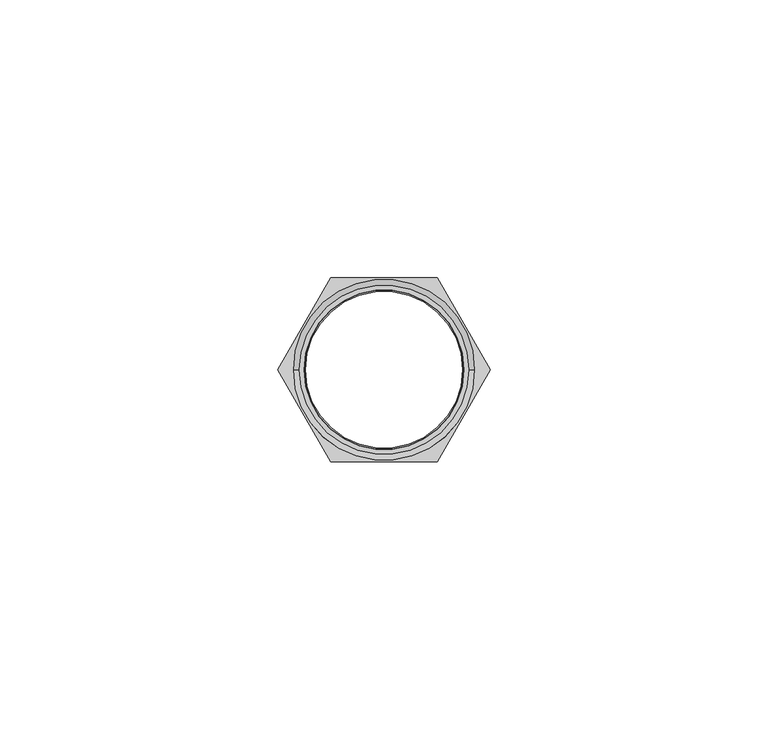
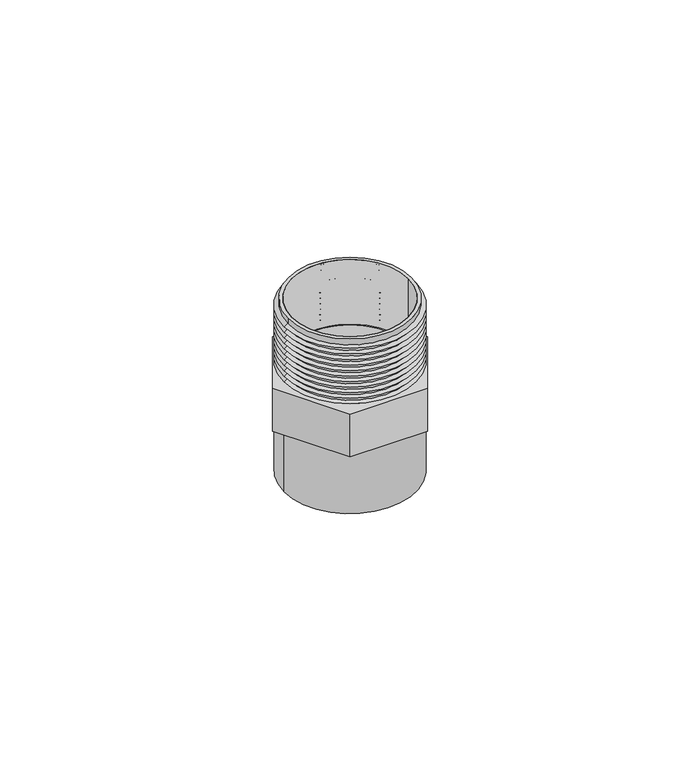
"""IFC4 building model written with IfcOpenShell, lengths in millimetres: valve geometry, Adaptador Macho_Lubrizol_CPVC_FlowGuard_MX 25mm : Adaptador Macho_Lubrizol_CPVC_FlowGuard_MX 25mm."""

from ifc_helpers import new_model, si_unit, point, frame, origin, origin_with_axes, origin_2d, place, context, project, spatial, polyline, circle_curve, trimmed, segment, composite_curve, outline, extrude, source, transform, mapped, element, save
from ifc_brep_helpers import plane_surface, cylinder_surface, revolved_surface, advanced_brep


def valve_d5ede667(model_context):
    return source(origin(), model_context, "Body", "SolidModel", [
        extrude(outline(composite_curve([segment(trimmed(circle_curve(origin_2d(), 15.2362873), [point((-15.2362873, 0.0))], [point((15.2362873, 0.0))], False, "CARTESIAN"), True, "CONTINUOUS"), segment(trimmed(circle_curve(origin_2d(), 15.2362873), [point((15.2362873, 0.0))], [point((-15.2362873, 0.0))], False, "CARTESIAN"), True, "CONTINUOUS")], self_intersect=False), holes=[composite_curve([segment(trimmed(circle_curve(origin_2d(), 14.3854831), [point((-14.3854831, 0.0))], [point((14.3854831, 0.0))], True, "CARTESIAN"), True, "CONTINUOUS"), segment(trimmed(circle_curve(origin_2d(), 14.3854831), [point((14.3854831, 0.0))], [point((-14.3854831, 0.0))], True, "CARTESIAN"), True, "CONTINUOUS")], self_intersect=False)]), frame((0.0, 0.0, 28.0251223), z_axis=(0.0, 0.0, 1.0), x_axis=(1.0, 0.0, 0.0)), (0.0, 0.0, 1.0), 16.8498777),
        extrude(outline(polyline([(-9.584841, -16.6014316), (-19.169682, 0.0), (-9.584841, 16.6014316), (9.584841, 16.6014316), (19.169682, 0.0), (9.584841, -16.6014316), (-9.584841, -16.6014316)]), holes=[composite_curve([segment(trimmed(circle_curve(origin_2d(), 14.1), [point((-14.1, 0.0))], [point((14.1, 0.0))], True, "CARTESIAN"), True, "CONTINUOUS"), segment(trimmed(circle_curve(origin_2d(), 14.1), [point((14.1, 0.0))], [point((-14.1, 0.0))], True, "CARTESIAN"), True, "CONTINUOUS")], self_intersect=False)]), frame((0.0, 0.0, 16.8611414), z_axis=(0.0, 0.0, 1.0), x_axis=(1.0, 0.0, 0.0)), (0.0, 0.0, 1.0), 11.163981),
        advanced_brep(
        [(15.2362873, 0.0, 43.8839284), (-15.2362873, 0.0, 43.8839284), (-15.2362873, 0.0, 44.875), (15.2362873, 0.0, 44.875), (16.3, 0.0, 43.1391088), (-16.3, 0.0, 43.1391088), (15.2657757, 0.0, 42.4149371), (-15.2657757, 0.0, 42.4149371), (16.3, 0.0, 41.6907655), (-16.3, 0.0, 41.6907655), (15.2657757, 0.0, 40.9665939), (-15.2657757, 0.0, 40.9665939), (16.3, 0.0, 40.2424223), (-16.3, 0.0, 40.2424223), (15.2657757, 0.0, 39.5182506), (-15.2657757, 0.0, 39.5182506), (16.3, 0.0, 38.794079), (-16.3, 0.0, 38.794079), (15.2657757, 0.0, 38.0699074), (-15.2657757, 0.0, 38.0699074), (16.3, 0.0, 37.3457358), (-16.3, 0.0, 37.3457358), (15.2657757, 0.0, 36.6215641), (-15.2657757, 0.0, 36.6215641), (16.3, 0.0, 35.8973925), (-16.3, 0.0, 35.8973925), (15.2657757, 0.0, 35.1732209), (-15.2657757, 0.0, 35.1732209), (16.3, 0.0, 34.4490493), (-16.3, 0.0, 34.4490493), (15.2657757, 0.0, 33.7248777), (-15.2657757, 0.0, 33.7248777), (16.3, 0.0, 33.000706), (-16.3, 0.0, 33.000706), (15.2657757, 0.0, 32.2765344), (-15.2657757, 0.0, 32.2765344), (16.3, 0.0, 31.5523628), (-16.3, 0.0, 31.5523628), (15.2992007, 0.0, 30.8515956), (-15.2992007, 0.0, 30.8515956), (14.3854831, 0.0, 44.875), (-14.3854831, 0.0, 44.875), (-14.3854831, 0.0, 28.0251223), (14.3854831, 0.0, 28.0251223), (16.3, 0.0, 30.1508284), (-16.3, 0.0, 30.1508284), (15.2657757, 0.0, 29.4266568), (-15.2657757, 0.0, 29.4266568), (16.3, 0.0, 28.7024851), (-16.3, 0.0, 28.7024851), (15.3326257, 0.0, 28.0251223), (-15.3326257, 0.0, 28.0251223)],
        [
            (0, 1, circle_curve(frame((0.0, 0.0, 43.8839284), z_axis=(0.0, 0.0, 1.0), x_axis=(-1.0, 0.0, 0.0)), 15.2362873)),
            (1, 2),
            (2, 3, circle_curve(frame((0.0, 0.0, 44.875), z_axis=(0.0, 0.0, -1.0), x_axis=(-1.0, 0.0, 0.0)), 15.2362873)),
            (3, 0),
            (1, 0, circle_curve(frame((0.0, 0.0, 43.8839284), z_axis=(0.0, 0.0, 1.0), x_axis=(-1.0, 0.0, 0.0)), 15.2362873)),
            (3, 2, circle_curve(frame((0.0, 0.0, 44.875), z_axis=(0.0, 0.0, -1.0), x_axis=(-1.0, 0.0, 0.0)), 15.2362873)),
            (4, 5, circle_curve(frame((0.0, 0.0, 43.1391088), z_axis=(0.0, 0.0, 1.0), x_axis=(-1.0, 0.0, 0.0)), 16.3)),
            (5, 1),
            (0, 4),
            (5, 4, circle_curve(frame((0.0, 0.0, 43.1391088), z_axis=(0.0, 0.0, 1.0), x_axis=(-1.0, 0.0, 0.0)), 16.3)),
            (6, 7, circle_curve(frame((0.0, 0.0, 42.4149371), z_axis=(0.0, 0.0, 1.0), x_axis=(-1.0, 0.0, 0.0)), 15.2657757)),
            (7, 5),
            (4, 6),
            (7, 6, circle_curve(frame((0.0, 0.0, 42.4149371), z_axis=(0.0, 0.0, 1.0), x_axis=(-1.0, 0.0, 0.0)), 15.2657757)),
            (8, 9, circle_curve(frame((0.0, 0.0, 41.6907655), z_axis=(0.0, 0.0, 1.0), x_axis=(-1.0, 0.0, 0.0)), 16.3)),
            (9, 7),
            (6, 8),
            (9, 8, circle_curve(frame((0.0, 0.0, 41.6907655), z_axis=(0.0, 0.0, 1.0), x_axis=(-1.0, 0.0, 0.0)), 16.3)),
            (10, 11, circle_curve(frame((0.0, 0.0, 40.9665939), z_axis=(0.0, 0.0, 1.0), x_axis=(-1.0, 0.0, 0.0)), 15.2657757)),
            (11, 9),
            (8, 10),
            (11, 10, circle_curve(frame((0.0, 0.0, 40.9665939), z_axis=(0.0, 0.0, 1.0), x_axis=(-1.0, 0.0, 0.0)), 15.2657757)),
            (12, 13, circle_curve(frame((0.0, 0.0, 40.2424223), z_axis=(0.0, 0.0, 1.0), x_axis=(-1.0, 0.0, 0.0)), 16.3)),
            (13, 11),
            (10, 12),
            (13, 12, circle_curve(frame((0.0, 0.0, 40.2424223), z_axis=(0.0, 0.0, 1.0), x_axis=(-1.0, 0.0, 0.0)), 16.3)),
            (14, 15, circle_curve(frame((0.0, 0.0, 39.5182506), z_axis=(0.0, 0.0, 1.0), x_axis=(-1.0, 0.0, 0.0)), 15.2657757)),
            (15, 13),
            (12, 14),
            (15, 14, circle_curve(frame((0.0, 0.0, 39.5182506), z_axis=(0.0, 0.0, 1.0), x_axis=(-1.0, 0.0, 0.0)), 15.2657757)),
            (16, 17, circle_curve(frame((0.0, 0.0, 38.794079), z_axis=(0.0, 0.0, 1.0), x_axis=(-1.0, 0.0, 0.0)), 16.3)),
            (17, 15),
            (14, 16),
            (17, 16, circle_curve(frame((0.0, 0.0, 38.794079), z_axis=(0.0, 0.0, 1.0), x_axis=(-1.0, 0.0, 0.0)), 16.3)),
            (18, 19, circle_curve(frame((0.0, 0.0, 38.0699074), z_axis=(0.0, 0.0, 1.0), x_axis=(-1.0, 0.0, 0.0)), 15.2657757)),
            (19, 17),
            (16, 18),
            (19, 18, circle_curve(frame((0.0, 0.0, 38.0699074), z_axis=(0.0, 0.0, 1.0), x_axis=(-1.0, 0.0, 0.0)), 15.2657757)),
            (20, 21, circle_curve(frame((0.0, 0.0, 37.3457358), z_axis=(0.0, 0.0, 1.0), x_axis=(-1.0, 0.0, 0.0)), 16.3)),
            (21, 19),
            (18, 20),
            (21, 20, circle_curve(frame((0.0, 0.0, 37.3457358), z_axis=(0.0, 0.0, 1.0), x_axis=(-1.0, 0.0, 0.0)), 16.3)),
            (22, 23, circle_curve(frame((0.0, 0.0, 36.6215641), z_axis=(0.0, 0.0, 1.0), x_axis=(-1.0, 0.0, 0.0)), 15.2657757)),
            (23, 21),
            (20, 22),
            (23, 22, circle_curve(frame((0.0, 0.0, 36.6215641), z_axis=(0.0, 0.0, 1.0), x_axis=(-1.0, 0.0, 0.0)), 15.2657757)),
            (24, 25, circle_curve(frame((0.0, 0.0, 35.8973925), z_axis=(0.0, 0.0, 1.0), x_axis=(-1.0, 0.0, 0.0)), 16.3)),
            (25, 23),
            (22, 24),
            (25, 24, circle_curve(frame((0.0, 0.0, 35.8973925), z_axis=(0.0, 0.0, 1.0), x_axis=(-1.0, 0.0, 0.0)), 16.3)),
            (26, 27, circle_curve(frame((0.0, 0.0, 35.1732209), z_axis=(0.0, 0.0, 1.0), x_axis=(-1.0, 0.0, 0.0)), 15.2657757)),
            (27, 25),
            (24, 26),
            (27, 26, circle_curve(frame((0.0, 0.0, 35.1732209), z_axis=(0.0, 0.0, 1.0), x_axis=(-1.0, 0.0, 0.0)), 15.2657757)),
            (28, 29, circle_curve(frame((0.0, 0.0, 34.4490493), z_axis=(0.0, 0.0, 1.0), x_axis=(-1.0, 0.0, 0.0)), 16.3)),
            (29, 27),
            (26, 28),
            (29, 28, circle_curve(frame((0.0, 0.0, 34.4490493), z_axis=(0.0, 0.0, 1.0), x_axis=(-1.0, 0.0, 0.0)), 16.3)),
            (30, 31, circle_curve(frame((0.0, 0.0, 33.7248777), z_axis=(0.0, 0.0, 1.0), x_axis=(-1.0, 0.0, 0.0)), 15.2657757)),
            (31, 29),
            (28, 30),
            (31, 30, circle_curve(frame((0.0, 0.0, 33.7248777), z_axis=(0.0, 0.0, 1.0), x_axis=(-1.0, 0.0, 0.0)), 15.2657757)),
            (32, 33, circle_curve(frame((0.0, 0.0, 33.000706), z_axis=(0.0, 0.0, 1.0), x_axis=(-1.0, 0.0, 0.0)), 16.3)),
            (33, 31),
            (30, 32),
            (33, 32, circle_curve(frame((0.0, 0.0, 33.000706), z_axis=(0.0, 0.0, 1.0), x_axis=(-1.0, 0.0, 0.0)), 16.3)),
            (34, 35, circle_curve(frame((0.0, 0.0, 32.2765344), z_axis=(0.0, 0.0, 1.0), x_axis=(-1.0, 0.0, 0.0)), 15.2657757)),
            (35, 33),
            (32, 34),
            (35, 34, circle_curve(frame((0.0, 0.0, 32.2765344), z_axis=(0.0, 0.0, 1.0), x_axis=(-1.0, 0.0, 0.0)), 15.2657757)),
            (36, 37, circle_curve(frame((0.0, 0.0, 31.5523628), z_axis=(0.0, 0.0, 1.0), x_axis=(-1.0, 0.0, 0.0)), 16.3)),
            (37, 35),
            (34, 36),
            (37, 36, circle_curve(frame((0.0, 0.0, 31.5523628), z_axis=(0.0, 0.0, 1.0), x_axis=(-1.0, 0.0, 0.0)), 16.3)),
            (38, 39, circle_curve(frame((0.0, 0.0, 30.8515956), z_axis=(0.0, 0.0, 1.0), x_axis=(-1.0, 0.0, 0.0)), 15.2992007)),
            (39, 37),
            (36, 38),
            (39, 38, circle_curve(frame((0.0, 0.0, 30.8515956), z_axis=(0.0, 0.0, 1.0), x_axis=(-1.0, 0.0, 0.0)), 15.2992007)),
            (40, 41, circle_curve(frame((0.0, 0.0, 44.875), z_axis=(0.0, 0.0, 1.0), x_axis=(-1.0, 0.0, 0.0)), 14.3854831)),
            (41, 42),
            (42, 43, circle_curve(frame((0.0, 0.0, 28.0251223), z_axis=(0.0, 0.0, -1.0), x_axis=(-1.0, 0.0, 0.0)), 14.3854831)),
            (43, 40),
            (41, 40, circle_curve(frame((0.0, 0.0, 44.875), z_axis=(0.0, 0.0, 1.0), x_axis=(-1.0, 0.0, 0.0)), 14.3854831)),
            (43, 42, circle_curve(frame((0.0, 0.0, 28.0251223), z_axis=(0.0, 0.0, -1.0), x_axis=(-1.0, 0.0, 0.0)), 14.3854831)),
            (2, 41),
            (40, 3),
            (44, 45, circle_curve(frame((0.0, 0.0, 30.1508284), z_axis=(0.0, 0.0, 1.0), x_axis=(-1.0, 0.0, 0.0)), 16.3)),
            (45, 39),
            (38, 44),
            (45, 44, circle_curve(frame((0.0, 0.0, 30.1508284), z_axis=(0.0, 0.0, 1.0), x_axis=(-1.0, 0.0, 0.0)), 16.3)),
            (46, 47, circle_curve(frame((0.0, 0.0, 29.4266568), z_axis=(0.0, 0.0, 1.0), x_axis=(-1.0, 0.0, 0.0)), 15.2657757)),
            (47, 45),
            (44, 46),
            (47, 46, circle_curve(frame((0.0, 0.0, 29.4266568), z_axis=(0.0, 0.0, 1.0), x_axis=(-1.0, 0.0, 0.0)), 15.2657757)),
            (48, 49, circle_curve(frame((0.0, 0.0, 28.7024851), z_axis=(0.0, 0.0, 1.0), x_axis=(-1.0, 0.0, 0.0)), 16.3)),
            (49, 47),
            (46, 48),
            (49, 48, circle_curve(frame((0.0, 0.0, 28.7024851), z_axis=(0.0, 0.0, 1.0), x_axis=(-1.0, 0.0, 0.0)), 16.3)),
            (50, 51, circle_curve(frame((0.0, 0.0, 28.0251223), z_axis=(0.0, 0.0, 1.0), x_axis=(-1.0, 0.0, 0.0)), 15.3326257)),
            (51, 49),
            (48, 50),
            (51, 50, circle_curve(frame((0.0, 0.0, 28.0251223), z_axis=(0.0, 0.0, 1.0), x_axis=(-1.0, 0.0, 0.0)), 15.3326257)),
            (42, 51),
            (50, 43),
        ],
        [
            cylinder_surface(frame((0.0, 0.0, 39.6339883), z_axis=(0.0, 0.0, -1.0), x_axis=(-1.0, 0.0, 0.0)), 15.2362873),
            revolved_surface(polyline([(-15.2362873, 0.0, 43.8839284), (-16.3, 0.0, 43.1391088)]), (0.0, 0.0, 39.6339883), (0.0, 0.0, -1.0)),
            revolved_surface(polyline([(-16.3, 0.0, 43.1391088), (-15.2657757, 0.0, 42.4149371)]), (0.0, 0.0, 39.6339883), (0.0, 0.0, -1.0)),
            revolved_surface(polyline([(-15.2657757, 0.0, 42.4149371), (-16.3, 0.0, 41.6907655)]), (0.0, 0.0, 39.6339883), (0.0, 0.0, -1.0)),
            revolved_surface(polyline([(-16.3, 0.0, 41.6907655), (-15.2657757, 0.0, 40.9665939)]), (0.0, 0.0, 39.6339883), (0.0, 0.0, -1.0)),
            revolved_surface(polyline([(-15.2657757, 0.0, 40.9665939), (-16.3, 0.0, 40.2424223)]), (0.0, 0.0, 39.6339883), (0.0, 0.0, -1.0)),
            revolved_surface(polyline([(-16.3, 0.0, 40.2424223), (-15.2657757, 0.0, 39.5182506)]), (0.0, 0.0, 39.6339883), (0.0, 0.0, -1.0)),
            revolved_surface(polyline([(-15.2657757, 0.0, 39.5182506), (-16.3, 0.0, 38.794079)]), (0.0, 0.0, 39.6339883), (0.0, 0.0, -1.0)),
            revolved_surface(polyline([(-16.3, 0.0, 38.794079), (-15.2657757, 0.0, 38.0699074)]), (0.0, 0.0, 39.6339883), (0.0, 0.0, -1.0)),
            revolved_surface(polyline([(-15.2657757, 0.0, 38.0699074), (-16.3, 0.0, 37.3457358)]), (0.0, 0.0, 39.6339883), (0.0, 0.0, -1.0)),
            revolved_surface(polyline([(-16.3, 0.0, 37.3457358), (-15.2657757, 0.0, 36.6215641)]), (0.0, 0.0, 39.6339883), (0.0, 0.0, -1.0)),
            revolved_surface(polyline([(-15.2657757, 0.0, 36.6215641), (-16.3, 0.0, 35.8973925)]), (0.0, 0.0, 39.6339883), (0.0, 0.0, -1.0)),
            revolved_surface(polyline([(-16.3, 0.0, 35.8973925), (-15.2657757, 0.0, 35.1732209)]), (0.0, 0.0, 39.6339883), (0.0, 0.0, -1.0)),
            revolved_surface(polyline([(-15.2657757, 0.0, 35.1732209), (-16.3, 0.0, 34.4490493)]), (0.0, 0.0, 39.6339883), (0.0, 0.0, -1.0)),
            revolved_surface(polyline([(-16.3, 0.0, 34.4490493), (-15.2657757, 0.0, 33.7248777)]), (0.0, 0.0, 39.6339883), (0.0, 0.0, -1.0)),
            revolved_surface(polyline([(-15.2657757, 0.0, 33.7248777), (-16.3, 0.0, 33.000706)]), (0.0, 0.0, 39.6339883), (0.0, 0.0, -1.0)),
            revolved_surface(polyline([(-16.3, 0.0, 33.000706), (-15.2657757, 0.0, 32.2765344)]), (0.0, 0.0, 39.6339883), (0.0, 0.0, -1.0)),
            revolved_surface(polyline([(-15.2657757, 0.0, 32.2765344), (-16.3, 0.0, 31.5523628)]), (0.0, 0.0, 39.6339883), (0.0, 0.0, -1.0)),
            revolved_surface(polyline([(-16.3, 0.0, 31.5523628), (-15.2992007, 0.0, 30.8515956)]), (0.0, 0.0, 39.6339883), (0.0, 0.0, -1.0)),
            revolved_surface(polyline([(-14.3854831, 0.0, 28.0251223), (-14.3854831, 0.0, 44.875)]), (0.0, 0.0, 39.6339883), (0.0, 0.0, -1.0)),
            plane_surface(frame((0.0, 0.0, 44.875), z_axis=(0.0, 0.0, 1.0), x_axis=(-1.0, 0.0, 0.0))),
            revolved_surface(polyline([(-15.2992007, 0.0, 30.8515956), (-16.3, 0.0, 30.1508284)]), (0.0, 0.0, 39.6339883), (0.0, 0.0, -1.0)),
            revolved_surface(polyline([(-16.3, 0.0, 30.1508284), (-15.2657757, 0.0, 29.4266568)]), (0.0, 0.0, 39.6339883), (0.0, 0.0, -1.0)),
            revolved_surface(polyline([(-15.2657757, 0.0, 29.4266568), (-16.3, 0.0, 28.7024851)]), (0.0, 0.0, 39.6339883), (0.0, 0.0, -1.0)),
            revolved_surface(polyline([(-16.3, 0.0, 28.7024851), (-15.3326257, 0.0, 28.0251223)]), (0.0, 0.0, 39.6339883), (0.0, 0.0, -1.0)),
            plane_surface(frame((0.0, 0.0, 28.0251223), z_axis=(0.0, 0.0, -1.0), x_axis=(-1.0, 0.0, 0.0))),
        ],
        [
            (0, [[1, 2, 3, 4]]),
            (0, [[5, -4, 6, -2]]),
            (1, [[7, 8, -1, 9]]),
            (1, [[10, -9, -5, -8]]),
            (2, [[11, 12, -7, 13]]),
            (2, [[14, -13, -10, -12]]),
            (3, [[15, 16, -11, 17]]),
            (3, [[18, -17, -14, -16]]),
            (4, [[19, 20, -15, 21]]),
            (4, [[22, -21, -18, -20]]),
            (5, [[23, 24, -19, 25]]),
            (5, [[26, -25, -22, -24]]),
            (6, [[27, 28, -23, 29]]),
            (6, [[30, -29, -26, -28]]),
            (7, [[31, 32, -27, 33]]),
            (7, [[34, -33, -30, -32]]),
            (8, [[35, 36, -31, 37]]),
            (8, [[38, -37, -34, -36]]),
            (9, [[39, 40, -35, 41]]),
            (9, [[42, -41, -38, -40]]),
            (10, [[43, 44, -39, 45]]),
            (10, [[46, -45, -42, -44]]),
            (11, [[47, 48, -43, 49]]),
            (11, [[50, -49, -46, -48]]),
            (12, [[51, 52, -47, 53]]),
            (12, [[54, -53, -50, -52]]),
            (13, [[55, 56, -51, 57]]),
            (13, [[58, -57, -54, -56]]),
            (14, [[59, 60, -55, 61]]),
            (14, [[62, -61, -58, -60]]),
            (15, [[63, 64, -59, 65]]),
            (15, [[66, -65, -62, -64]]),
            (16, [[67, 68, -63, 69]]),
            (16, [[70, -69, -66, -68]]),
            (17, [[71, 72, -67, 73]]),
            (17, [[74, -73, -70, -72]]),
            (18, [[75, 76, -71, 77]]),
            (18, [[78, -77, -74, -76]]),
            (19, [[79, 80, 81, 82]]),
            (19, [[83, -82, 84, -80]]),
            (20, [[-3, 85, -79, 86]]),
            (20, [[-6, -86, -83, -85]]),
            (21, [[87, 88, -75, 89]]),
            (21, [[90, -89, -78, -88]]),
            (22, [[91, 92, -87, 93]]),
            (22, [[94, -93, -90, -92]]),
            (23, [[95, 96, -91, 97]]),
            (23, [[98, -97, -94, -96]]),
            (24, [[99, 100, -95, 101]]),
            (24, [[102, -101, -98, -100]]),
            (25, [[-81, 103, -99, 104]]),
            (25, [[-84, -104, -102, -103]]),
        ],
    ),
        extrude(outline(composite_curve([segment(trimmed(circle_curve(origin_2d(), 16.3), [point((-16.3, 0.0))], [point((16.3, 0.0))], False, "CARTESIAN"), True, "CONTINUOUS"), segment(trimmed(circle_curve(origin_2d(), 16.3), [point((16.3, 0.0))], [point((-16.3, 0.0))], False, "CARTESIAN"), True, "CONTINUOUS")], self_intersect=False), holes=[composite_curve([segment(trimmed(circle_curve(origin_2d(), 14.3), [point((-14.3, 0.0))], [point((14.3, 0.0))], True, "CARTESIAN"), True, "CONTINUOUS"), segment(trimmed(circle_curve(origin_2d(), 14.3), [point((14.3, 0.0))], [point((-14.3, 0.0))], True, "CARTESIAN"), True, "CONTINUOUS")], self_intersect=False)]), origin_with_axes(), (0.0, 0.0, 1.0), 16.8611414),
    ])


if __name__ == "__main__":
    model = new_model("IFC4")
    model_context = context("Model", 3, world=origin())
    ifc_project = project(units=[si_unit("LENGTHUNIT", "METRE", prefix="MILLI")], contexts=[model_context])
    site = spatial("IfcSite", under=ifc_project)
    building = spatial("IfcBuilding", under=site)
    placement = place(None, origin())
    valve_shape = valve_d5ede667(model_context)
    element("IfcValve", 1, ObjectType="Adaptador Macho_Lubrizol_CPVC_FlowGuard_MX 25mm : Adaptador Macho_Lubrizol_CPVC_FlowGuard_MX 25mm", at=placement, inside=building, context=model_context, shape_type="MappedRepresentation", body=[
        mapped(valve_shape, transform((0.0, 0.0, 0.0), x_axis=(1.0, 0.0, 0.0), y_axis=(0.0, 1.0, 0.0), z_axis=(0.0, 0.0, 1.0))),
    ])
    save(model, "model.ifc")
